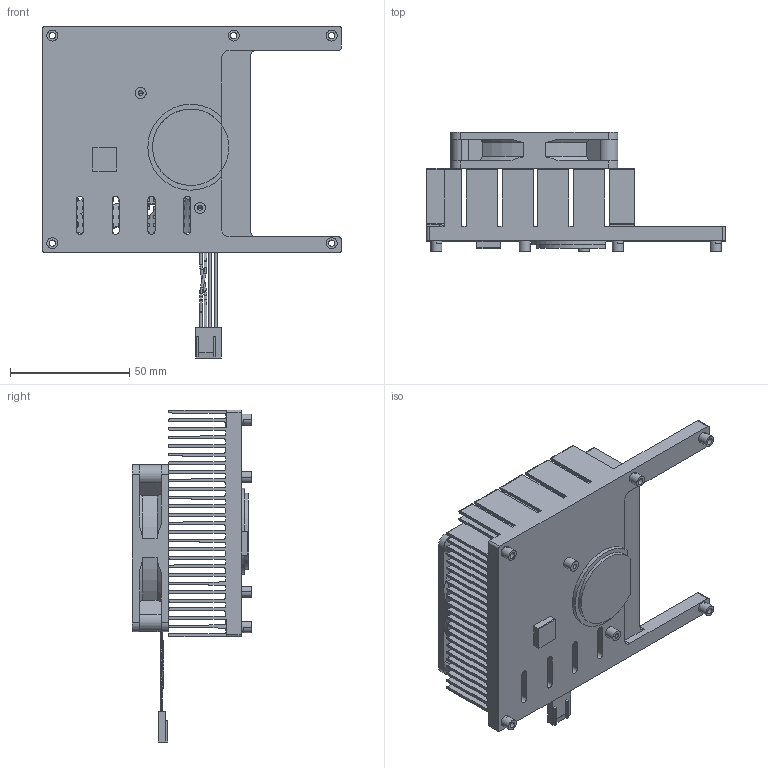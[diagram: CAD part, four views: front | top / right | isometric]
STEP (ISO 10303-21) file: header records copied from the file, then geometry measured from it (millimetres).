
FILE_DESCRIPTION((''),'2;1');
FILE_NAME('E1961113450002R_ASM','2019-10-01T13:43:13',('kobe_chang'),(''),'CREO PARAMETRIC BY PTC INC, 2017110','CREO PARAMETRIC BY PTC INC, 2017110','');
FILE_SCHEMA(('CONFIG_CONTROL_DESIGN','GEOMETRIC_VALIDATION_PROPERTIES_MIM'));
Products named in the file (8): ESM-CFH-SINK; LIPOLY-PK404-10-10-0_5T; ESM-CFH-CU; 7015_7; IM7015; CABLE; FAN-7015_ASM; E1961113450002R_ASM
Assembly tree (7 placements, depth 3):
  E1961113450002R_ASM
    ESM-CFH-SINK
    LIPOLY-PK404-10-10-0_5T
    ESM-CFH-CU
    FAN-7015_ASM
      7015_7
      IM7015
      CABLE
Bounding box: 125 x 49.9 x 139.1 mm (x, y, z)
Volume: 132749.9 mm3; surface area: 156309.3 mm2
Topology: 6 solids, 6 shells, 1836 faces, 5300 edges, 3514 vertices
Faces by surface type: plane 902, cylinder 770, cone 44, bspline 42, extrusion 36, torus 34, revolution 8
Entity records: 81249 total; most frequent: CARTESIAN_POINT 22067, ORIENTED_EDGE 10592, DIRECTION 9782, EDGE_CURVE 5296, VERTEX_POINT 3514, PRESENTATION_STYLE_ASSIGNMENT 3425, STYLED_ITEM 3425, CURVE_STYLE 3422
